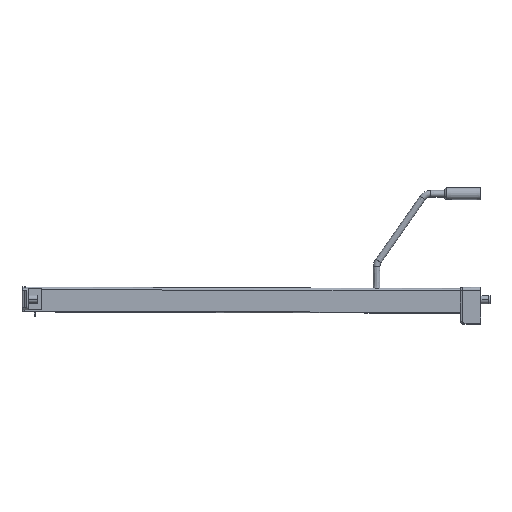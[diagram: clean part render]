
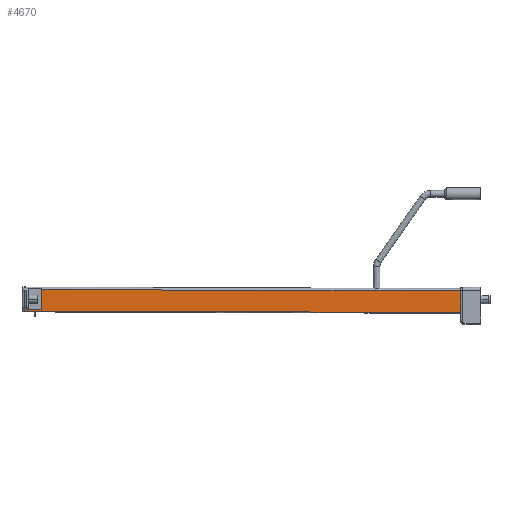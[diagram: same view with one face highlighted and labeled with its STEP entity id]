
A CAD part, left-side view. The second image highlights one B-rep face of the part: STEP entity #4670.
In plain terms, the highlighted planar face has unit normal (-1, 0, 0).
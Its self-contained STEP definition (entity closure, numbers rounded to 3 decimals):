
#644 = CARTESIAN_POINT ( 'NONE',  ( -5.25, 530.9, -12.42 ) ) ;
#663 = CARTESIAN_POINT ( 'NONE',  ( -5.25, 530.9, 12.137 ) ) ;
#667 = CARTESIAN_POINT ( 'NONE',  ( -5.25, 25., -15.5 ) ) ;
#957 = VERTEX_POINT ( 'NONE', #644 ) ;
#1196 = VERTEX_POINT ( 'NONE', #663 ) ;
#1200 = VERTEX_POINT ( 'NONE', #667 ) ;
#1239 = VERTEX_POINT ( 'NONE', #4313 ) ;
#1270 = VERTEX_POINT ( 'NONE', #4344 ) ;
#1272 = VERTEX_POINT ( 'NONE', #4346 ) ;
#2207 = EDGE_CURVE ( 'NONE', #1196, #1270, #2942, .T. ) ;
#2208 = EDGE_CURVE ( 'NONE', #1200, #1270, #2944, .T. ) ;
#2209 = EDGE_CURVE ( 'NONE', #1272, #1200, #2946, .T. ) ;
#2210 = EDGE_CURVE ( 'NONE', #1272, #1239, #2948, .T. ) ;
#2211 = EDGE_CURVE ( 'NONE', #957, #1239, #2950, .T. ) ;
#2212 = EDGE_CURVE ( 'NONE', #1196, #957, #2952, .T. ) ;
#2511 = AXIS2_PLACEMENT_3D ( 'NONE', #4018, #4019, #4020 ) ;
#2942 = LINE ( 'NONE', #4718, #2943 ) ;
#2943 = VECTOR ( 'NONE', #4719, 1000. ) ;
#2944 = LINE ( 'NONE', #4720, #2945 ) ;
#2945 = VECTOR ( 'NONE', #4721, 1000. ) ;
#2946 = LINE ( 'NONE', #4722, #2947 ) ;
#2947 = VECTOR ( 'NONE', #4723, 1000. ) ;
#2948 = LINE ( 'NONE', #4724, #2949 ) ;
#2949 = VECTOR ( 'NONE', #4725, 1000. ) ;
#2950 = LINE ( 'NONE', #4726, #2951 ) ;
#2951 = VECTOR ( 'NONE', #4727, 1000. ) ;
#2952 = LINE ( 'NONE', #4728, #2953 ) ;
#2953 = VECTOR ( 'NONE', #4729, 1000. ) ;
#3359 = FACE_OUTER_BOUND ( 'NONE', #5124, .T. ) ;
#4017 = PLANE ( 'NONE',  #2511 ) ;
#4018 = CARTESIAN_POINT ( 'NONE',  ( -5.25, 584.23, -13.691 ) ) ;
#4019 = DIRECTION ( 'NONE',  ( 1., 0., 0. ) ) ;
#4020 = DIRECTION ( 'NONE',  ( 0., 0., 1. ) ) ;
#4313 = CARTESIAN_POINT ( 'NONE',  ( -5.25, 551.4, -12.42 ) ) ;
#4344 = CARTESIAN_POINT ( 'NONE',  ( -5.25, 25., 10.5 ) ) ;
#4346 = CARTESIAN_POINT ( 'NONE',  ( -5.25, 551.4, -13.797 ) ) ;
#4670 = ADVANCED_FACE ( 'NONE', ( #3359 ), #4017, .F. ) ;
#4718 = CARTESIAN_POINT ( 'NONE',  ( -5.25, 584.146, 12.309 ) ) ;
#4719 = DIRECTION ( 'NONE',  ( 0., -1., -0.003 ) ) ;
#4720 = CARTESIAN_POINT ( 'NONE',  ( -5.25, 25., 15. ) ) ;
#4721 = DIRECTION ( 'NONE',  ( 0., 0., 1. ) ) ;
#4722 = CARTESIAN_POINT ( 'NONE',  ( -5.25, 584.23, -13.691 ) ) ;
#4723 = DIRECTION ( 'NONE',  ( 0., -1., -0.003 ) ) ;
#4724 = CARTESIAN_POINT ( 'NONE',  ( -5.25, 551.4, -13.691 ) ) ;
#4725 = DIRECTION ( 'NONE',  ( 0., 0., 1. ) ) ;
#4726 = CARTESIAN_POINT ( 'NONE',  ( -5.25, 530.9, -12.42 ) ) ;
#4727 = DIRECTION ( 'NONE',  ( 0., 1., 0. ) ) ;
#4728 = CARTESIAN_POINT ( 'NONE',  ( -5.25, 530.9, 13.6 ) ) ;
#4729 = DIRECTION ( 'NONE',  ( 0., 0., -1. ) ) ;
#5124 = EDGE_LOOP ( 'NONE', ( #5221, #5222, #5223, #5224, #5225, #5226 ) ) ;
#5221 = ORIENTED_EDGE ( 'NONE', *, *, #2212, .T. ) ;
#5222 = ORIENTED_EDGE ( 'NONE', *, *, #2211, .T. ) ;
#5223 = ORIENTED_EDGE ( 'NONE', *, *, #2210, .F. ) ;
#5224 = ORIENTED_EDGE ( 'NONE', *, *, #2209, .T. ) ;
#5225 = ORIENTED_EDGE ( 'NONE', *, *, #2208, .T. ) ;
#5226 = ORIENTED_EDGE ( 'NONE', *, *, #2207, .F. ) ;
